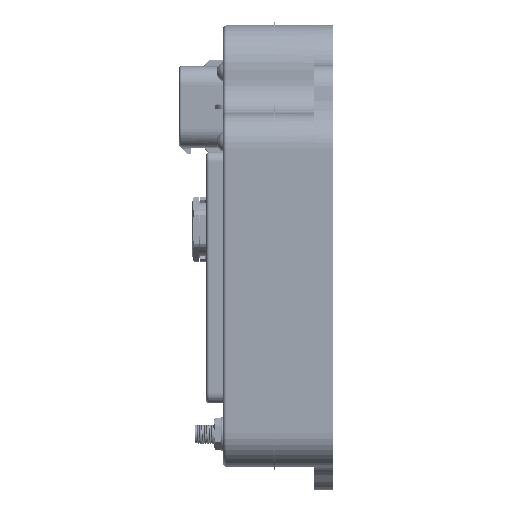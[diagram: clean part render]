
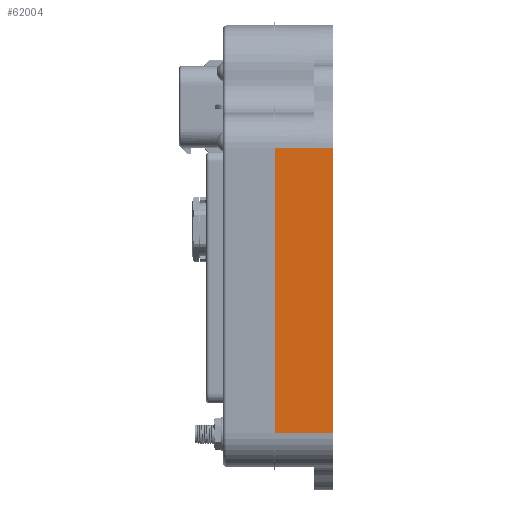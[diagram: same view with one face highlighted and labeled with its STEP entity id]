
A CAD part, left-side view. The second image highlights one B-rep face of the part: STEP entity #62004.
In plain terms, the highlighted planar face has unit normal (-1, 0, 0).
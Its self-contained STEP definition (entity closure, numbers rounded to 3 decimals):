
#7907 = VECTOR ( 'NONE', #128044, 1000. ) ;
#11961 = PLANE ( 'NONE',  #27609 ) ;
#18842 = CARTESIAN_POINT ( 'NONE',  ( -65., 17., -55. ) ) ;
#23651 = CARTESIAN_POINT ( 'NONE',  ( -65., 0., -55. ) ) ;
#24682 = LINE ( 'NONE', #69551, #47966 ) ;
#25289 = DIRECTION ( 'NONE',  ( 0., 0., -1. ) ) ;
#27609 = AXIS2_PLACEMENT_3D ( 'NONE', #132152, #59888, #25289 ) ;
#41915 = VECTOR ( 'NONE', #81163, 1000. ) ;
#47391 = CARTESIAN_POINT ( 'NONE',  ( -65., 0., -65. ) ) ;
#47966 = VECTOR ( 'NONE', #106398, 1000. ) ;
#49665 = LINE ( 'NONE', #60684, #52301 ) ;
#52301 = VECTOR ( 'NONE', #73248, 1000. ) ;
#54858 = CARTESIAN_POINT ( 'NONE',  ( -65., 17., 29. ) ) ;
#59888 = DIRECTION ( 'NONE',  ( 1., 0., 0. ) ) ;
#60684 = CARTESIAN_POINT ( 'NONE',  ( -65., 17., -55. ) ) ;
#62004 = ADVANCED_FACE ( 'NONE', ( #118805 ), #11961, .F. ) ;
#69551 = CARTESIAN_POINT ( 'NONE',  ( -65., 17., -65. ) ) ;
#70605 = VERTEX_POINT ( 'NONE', #54858 ) ;
#72212 = EDGE_CURVE ( 'NONE', #150684, #152712, #49665, .T. ) ;
#73248 = DIRECTION ( 'NONE',  ( 0., -1., 0. ) ) ;
#76054 = EDGE_CURVE ( 'NONE', #70605, #128151, #105246, .T. ) ;
#81163 = DIRECTION ( 'NONE',  ( 0., 0., 1. ) ) ;
#85855 = EDGE_CURVE ( 'NONE', #152712, #128151, #141689, .T. ) ;
#89508 = ORIENTED_EDGE ( 'NONE', *, *, #72212, .T. ) ;
#105246 = LINE ( 'NONE', #153238, #7907 ) ;
#106398 = DIRECTION ( 'NONE',  ( 0., 0., 1. ) ) ;
#118805 = FACE_OUTER_BOUND ( 'NONE', #146580, .T. ) ;
#128044 = DIRECTION ( 'NONE',  ( 0., -1., 0. ) ) ;
#128151 = VERTEX_POINT ( 'NONE', #150601 ) ;
#132152 = CARTESIAN_POINT ( 'NONE',  ( -65., 17., -65. ) ) ;
#134689 = EDGE_CURVE ( 'NONE', #150684, #70605, #24682, .T. ) ;
#141689 = LINE ( 'NONE', #47391, #41915 ) ;
#145478 = ORIENTED_EDGE ( 'NONE', *, *, #85855, .T. ) ;
#146580 = EDGE_LOOP ( 'NONE', ( #147974, #89508, #145478, #154186 ) ) ;
#147974 = ORIENTED_EDGE ( 'NONE', *, *, #134689, .F. ) ;
#150601 = CARTESIAN_POINT ( 'NONE',  ( -65., 0., 29. ) ) ;
#150684 = VERTEX_POINT ( 'NONE', #18842 ) ;
#152712 = VERTEX_POINT ( 'NONE', #23651 ) ;
#153238 = CARTESIAN_POINT ( 'NONE',  ( -65., 17., 29. ) ) ;
#154186 = ORIENTED_EDGE ( 'NONE', *, *, #76054, .F. ) ;
